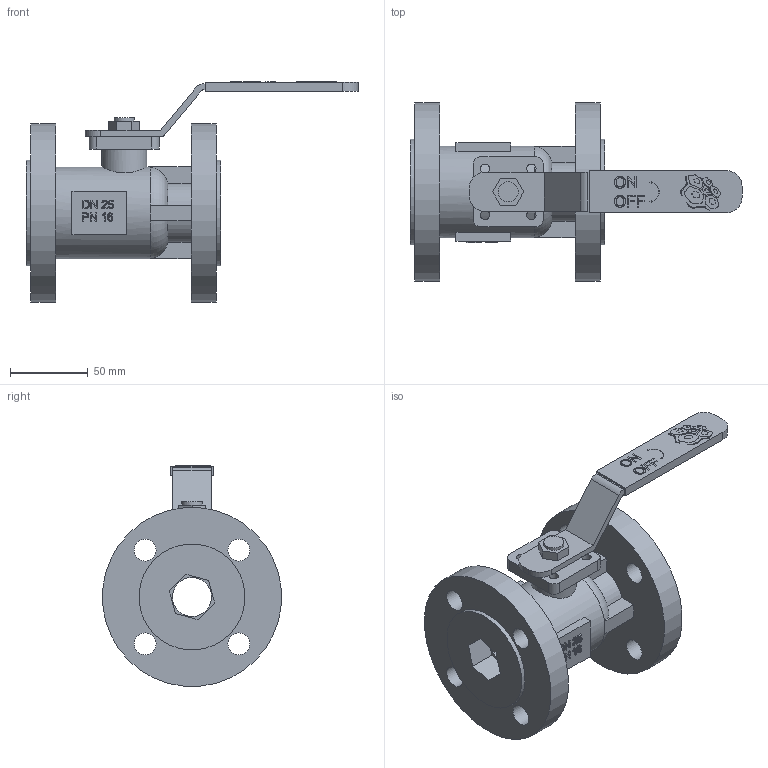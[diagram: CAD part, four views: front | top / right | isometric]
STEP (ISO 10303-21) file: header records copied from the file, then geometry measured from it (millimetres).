
FILE_DESCRIPTION(('STEP AP203'), '1');
FILE_NAME('3D_707-025-16', '', ('UNSPECIFIED'), ('UNSPECIFIED'), 'C3D Converter', 'C3D Toolkit', '');
FILE_SCHEMA(('CONFIG_CONTROL_DESIGN'));
Length unit declared in the file: millimetre
Bounding box: 213 x 114.56 x 141.48 mm (x, y, z)
Volume: 544801.4 mm3; surface area: 100432.3 mm2
Topology: 18 solids, 18 shells, 2377 faces, 6951 edges, 4630 vertices
Faces by surface type: plane 2336, cylinder 37, torus 4
Full cylindrical faces by diameter (mm): 6 x4, 13 x1, 14 x8, 25 x1, 29 x1, 59 x1, 68 x2, 115 x2
Entity records: 96942 total; most frequent: CARTESIAN_POINT 14626, ORIENTED_EDGE 13860, DIRECTION 11768, EDGE_CURVE 6930, LINE 6830, VECTOR 6830, VERTEX_POINT 4630, AXIS2_PLACEMENT_3D 2469
